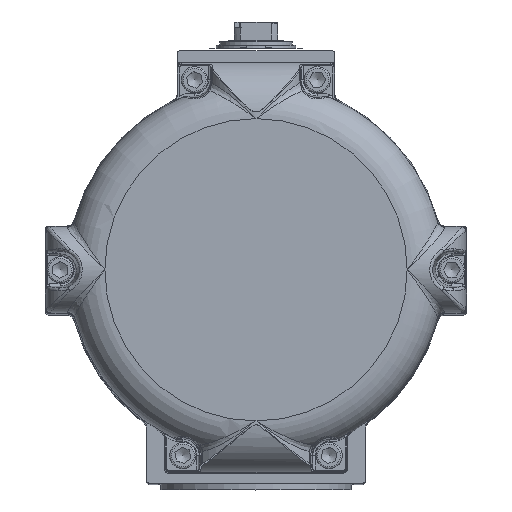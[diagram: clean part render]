
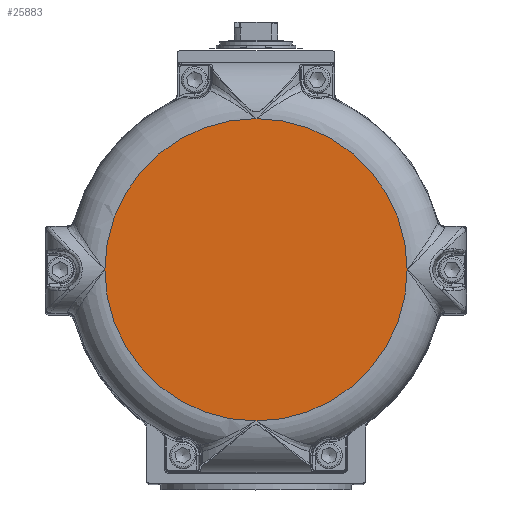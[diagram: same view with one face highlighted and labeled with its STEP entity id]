
A CAD part, top view. The second image highlights one B-rep face of the part: STEP entity #25883.
In plain terms, the highlighted planar face has unit normal (0, 0, 1).
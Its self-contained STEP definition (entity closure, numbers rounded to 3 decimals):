
#18984=CARTESIAN_POINT('',(0.,103.409,301.7));
#18985=VERTEX_POINT('',#18984);
#19005=CARTESIAN_POINT('',(103.409,0.,301.7));
#19006=VERTEX_POINT('',#19005);
#19007=CARTESIAN_POINT('',(0.,0.,301.7));
#19008=DIRECTION('',(0.0,0.0,1.0));
#19009=DIRECTION('',(-1.0,0.0,0.0));
#19010=AXIS2_PLACEMENT_3D('',#19007,#19008,#19009);
#19011=CIRCLE('',#19010,103.409);
#19012=EDGE_CURVE('',#19006,#18985,#19011,.T.);
#19424=CARTESIAN_POINT('',(0.,-103.409,301.7));
#19425=VERTEX_POINT('',#19424);
#19426=CARTESIAN_POINT('',(0.,0.,301.7));
#19427=DIRECTION('',(0.0,0.0,1.0));
#19428=DIRECTION('',(-1.0,0.0,0.0));
#19429=AXIS2_PLACEMENT_3D('',#19426,#19427,#19428);
#19430=CIRCLE('',#19429,103.409);
#19431=EDGE_CURVE('',#19425,#19006,#19430,.T.);
#21186=CARTESIAN_POINT('',(-103.409,0.,301.7));
#21187=VERTEX_POINT('',#21186);
#21188=CARTESIAN_POINT('',(0.,0.,301.7));
#21189=DIRECTION('',(0.0,0.0,1.0));
#21190=DIRECTION('',(-1.0,0.0,0.0));
#21191=AXIS2_PLACEMENT_3D('',#21188,#21189,#21190);
#21192=CIRCLE('',#21191,103.409);
#21193=EDGE_CURVE('',#18985,#21187,#21192,.T.);
#24857=CARTESIAN_POINT('',(0.,0.,301.7));
#24858=DIRECTION('',(0.0,0.0,1.0));
#24859=DIRECTION('',(-1.0,0.0,0.0));
#24860=AXIS2_PLACEMENT_3D('',#24857,#24858,#24859);
#24861=CIRCLE('',#24860,103.409);
#24862=EDGE_CURVE('',#21187,#19425,#24861,.T.);
#25872=CARTESIAN_POINT('',(-51.704,0.,301.7));
#25873=DIRECTION('',(0.0,0.0,1.0));
#25874=DIRECTION('',(0.0,-1.0,0.0));
#25875=AXIS2_PLACEMENT_3D('',#25872,#25873,#25874);
#25876=PLANE('',#25875);
#25877=ORIENTED_EDGE('',*,*,#19012,.T.);
#25878=ORIENTED_EDGE('',*,*,#21193,.T.);
#25879=ORIENTED_EDGE('',*,*,#24862,.T.);
#25880=ORIENTED_EDGE('',*,*,#19431,.T.);
#25881=EDGE_LOOP('',(#25877,#25878,#25879,#25880));
#25882=FACE_OUTER_BOUND('',#25881,.T.);
#25883=ADVANCED_FACE('',(#25882),#25876,.T.);
